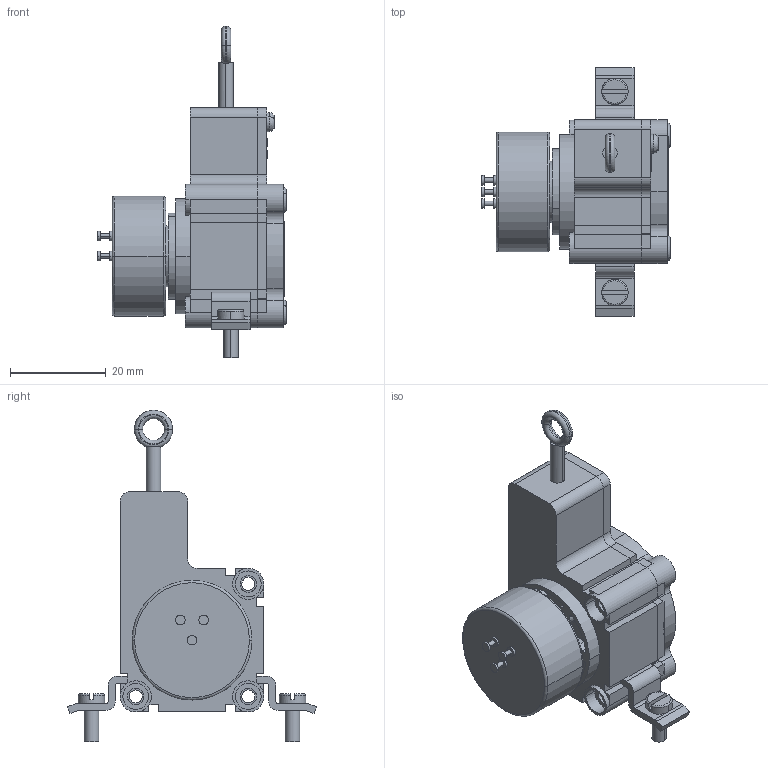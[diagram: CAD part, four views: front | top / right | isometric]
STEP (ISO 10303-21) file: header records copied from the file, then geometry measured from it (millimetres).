
FILE_DESCRIPTION((''),'2;1');
FILE_NAME('WPS-50-MK30-P50','2010-11-22T',(''),(''),'PRO/ENGINEER BY PARAMETRIC TECHNOLOGY CORPORATION, 2003250','PRO/ENGINEER BY PARAMETRIC TECHNOLOGY CORPORATION, 2003250','');
FILE_SCHEMA(('CONFIG_CONTROL_DESIGN'));
Length unit declared in the file: millimetre
Products named in the file (10): TELESO_P; DUTY_NYT_3_5X15; VIKO_SENZORU; OKO; UPINKA; M3X8; HC2_2X4_5; POTENCIOMETR-BOURNS_6639S; DISTANCE_MK30; WPS-50-MK30-P50
Assembly tree (13 placements, depth 2):
  WPS-50-MK30-P50
    TELESO_P
    DUTY_NYT_3_5X15  x3
    VIKO_SENZORU
    OKO
    UPINKA  x2
    M3X8  x2
    HC2_2X4_5
    POTENCIOMETR-BOURNS_6639S
    DISTANCE_MK30
Bounding box: 39.4 x 52 x 69.2 mm (x, y, z)
Volume: 15872.7 mm3; surface area: 16083.9 mm2
Topology: 13 solids, 13 shells, 651 faces, 1682 edges, 1113 vertices
Faces by surface type: plane 298, cylinder 207, extrusion 112, torus 28, cone 4, bspline 2
Entity records: 19784 total; most frequent: CARTESIAN_POINT 4790, ORIENTED_EDGE 3120, DIRECTION 2888, EDGE_CURVE 1560, VERTEX_POINT 1031, AXIS2_PLACEMENT_3D 967, VECTOR 954, LINE 842
